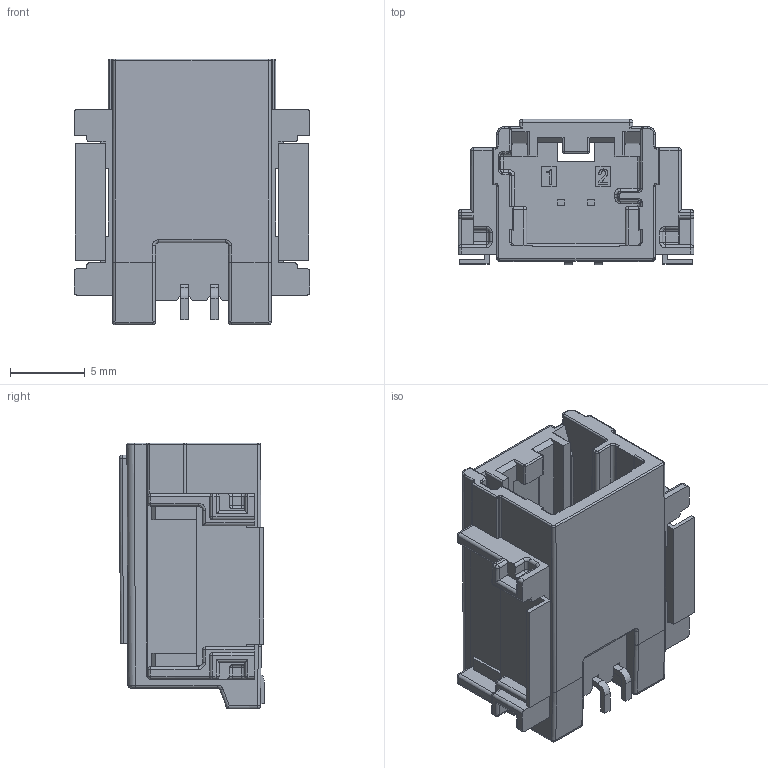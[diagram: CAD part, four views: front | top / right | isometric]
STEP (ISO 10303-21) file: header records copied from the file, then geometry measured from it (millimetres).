
FILE_DESCRIPTION((''),'2;1');
FILE_NAME('349128022','2021-05-06T',('gga'),(''),'PRO/ENGINEER BY PARAMETRIC TECHNOLOGY CORPORATION, 2016010','PRO/ENGINEER BY PARAMETRIC TECHNOLOGY CORPORATION, 2016010','');
FILE_SCHEMA(('CONFIG_CONTROL_DESIGN'));
Length unit declared in the file: millimetre
Products named in the file (1): 349128022
Bounding box: 15.8 x 9.71 x 17.8 mm (x, y, z)
Volume: 874.3 mm3; surface area: 1855.2 mm2
Topology: 1 solids, 1 shells, 838 faces, 2191 edges, 1273 vertices
Faces by surface type: plane 345, cylinder 324, sphere 82, bspline 43, torus 33, extrusion 11
Entity records: 25980 total; most frequent: CARTESIAN_POINT 6293, ORIENTED_EDGE 4182, DIRECTION 3964, EDGE_CURVE 2091, VECTOR 1360, LINE 1349, AXIS2_PLACEMENT_3D 1302, VERTEX_POINT 1257
